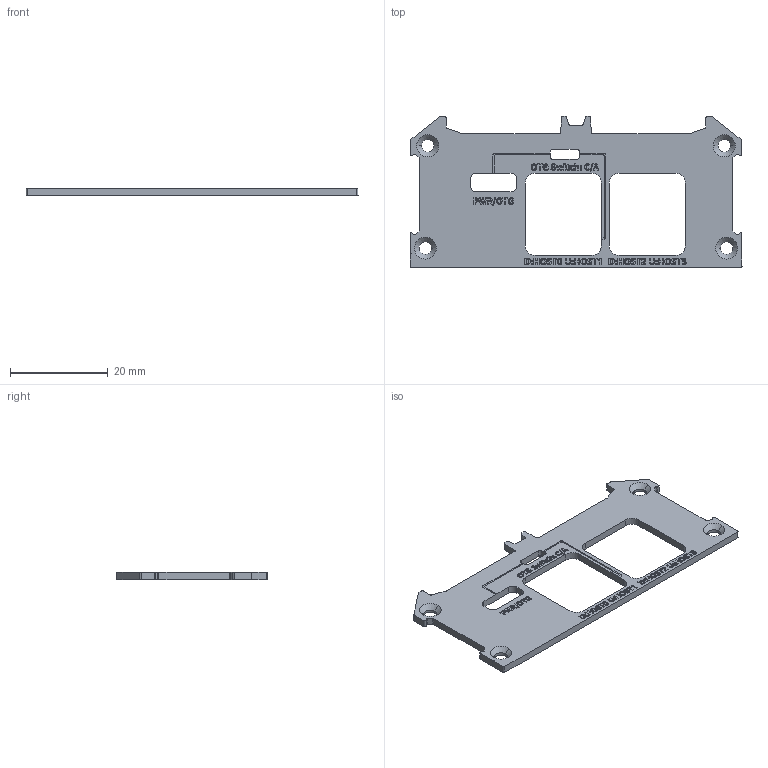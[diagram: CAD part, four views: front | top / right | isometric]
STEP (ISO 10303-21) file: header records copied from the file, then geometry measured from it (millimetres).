
FILE_DESCRIPTION (( 'STEP AP214' ), '1' );
FILE_NAME ('綴醱啣.STEP', '2024-06-03T02:36:40', ( '' ), ( '' ), 'SwSTEP 2.0', 'SolidWorks 2021', '' );
FILE_SCHEMA (( 'AUTOMOTIVE_DESIGN' ));
Length unit declared in the file: millimetre
Products named in the file (1): 綴醱啣
Bounding box: 68 x 31 x 1.5 mm (x, y, z)
Surface area: 3138.9 mm2 (no closed solid volume)
Topology: 0 solids, 2 shells, 732 faces, 1991 edges, 1326 vertices
Faces by surface type: plane 401, bspline 260, cylinder 63, cone 8
Entity records: 42537 total; most frequent: CARTESIAN_POINT 18974, ORIENTED_EDGE 3978, DIRECTION 2551, EDGE_CURVE 1991, LINE 1337, VECTOR 1337, VERTEX_POINT 1326, EDGE_LOOP 812
